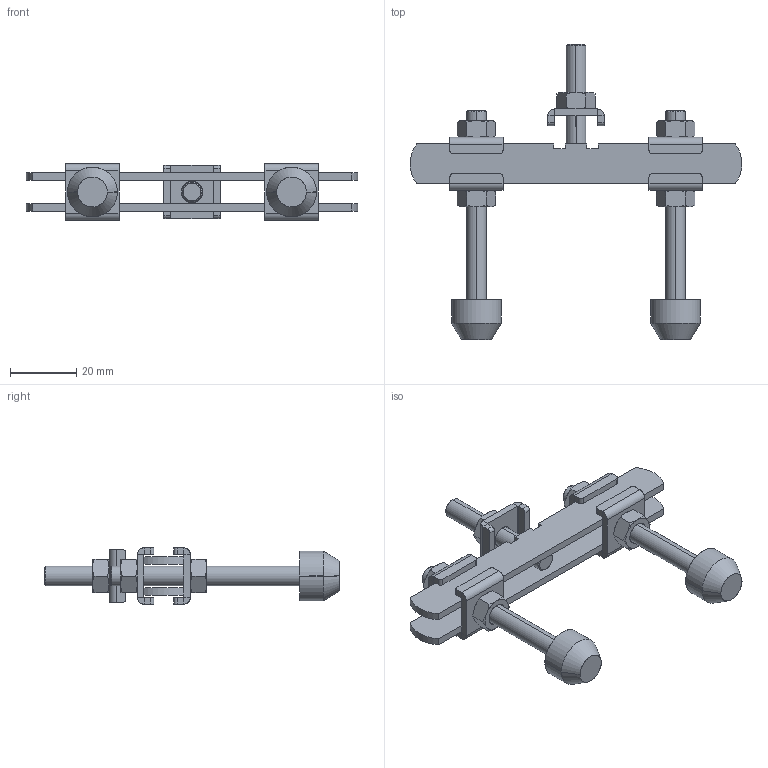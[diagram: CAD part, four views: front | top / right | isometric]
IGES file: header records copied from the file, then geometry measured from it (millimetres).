
Start section: SolidWorks IGES file using analytic representation for surfaces
Global section: file name: C:\Projetos\Ponteiras\PBD\PBD-M6.IGS; native system: SolidWorks 2015; preprocessor: SolidWorks 2015; author: Ricardo; date: 160725.151127; units: millimetre
Bounding box: 100 x 89 x 17 mm (x, y, z)
Surface area: 16677.8 mm2 (no closed solid volume)
Topology: 0 solids, 0 shells, 344 faces, 3768 edges, 3764 vertices
Faces by surface type: revolution 180, bspline 164
